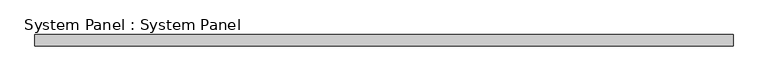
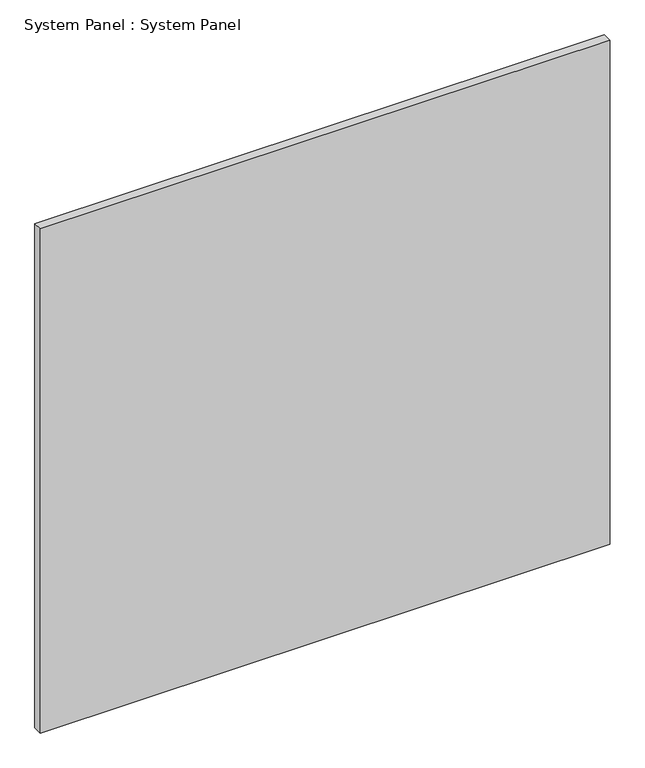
"""IFC4 building model written with IfcOpenShell, lengths in millimetres: plate geometry, System Panel : System Panel."""

from ifc_helpers import new_model, si_unit, origin, origin_with_axes, place, context, project, spatial, polyline, outline, extrude, source, transform, mapped, element, save


def system_panel_system_panel_8c290c1e(model_context):
    return source(origin(), model_context, "Body", "SweptSolid", [
        extrude(outline(polyline([(784.225, 19.05), (-784.225, 19.05), (-784.225, 44.45), (784.225, 44.45), (784.225, 19.05)])), origin_with_axes(), (0.0, 0.0, 1.0), 1466.85),
    ])


if __name__ == "__main__":
    model = new_model("IFC4")
    model_context = context("Model", 3, world=origin())
    ifc_project = project(units=[si_unit("LENGTHUNIT", "METRE", prefix="MILLI")], contexts=[model_context])
    site = spatial("IfcSite", under=ifc_project)
    building = spatial("IfcBuilding", under=site)
    placement = place(None, origin())
    system_panel_system_panel_shape = system_panel_system_panel_8c290c1e(model_context)
    element("IfcPlate", 1, ObjectType="System Panel : System Panel", at=placement, inside=building, context=model_context, shape_type="MappedRepresentation", body=[
        mapped(system_panel_system_panel_shape, transform((0.0, 0.0, 0.0), x_axis=(1.0, 0.0, 0.0), y_axis=(0.0, 1.0, 0.0), z_axis=(0.0, 0.0, 1.0))),
    ])
    save(model, "model.ifc")
